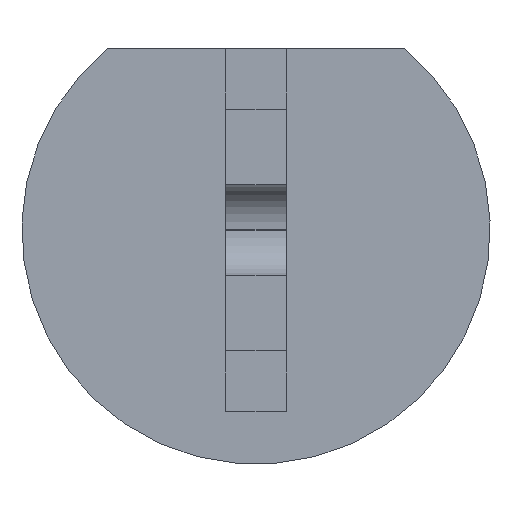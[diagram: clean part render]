
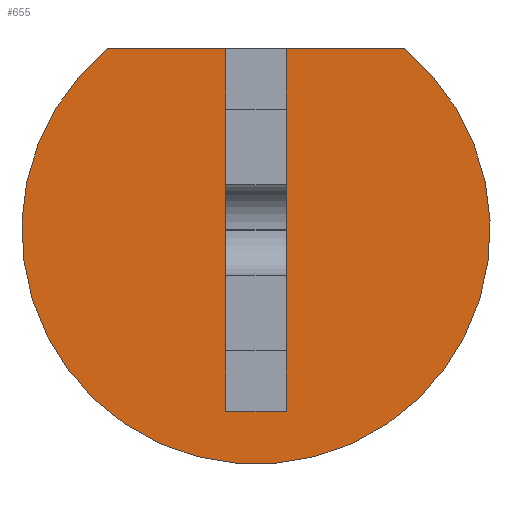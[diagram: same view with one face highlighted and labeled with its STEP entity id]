
A CAD part, front view. The second image highlights one B-rep face of the part: STEP entity #655.
In plain terms, the highlighted planar face has unit normal (0, -1, 0).
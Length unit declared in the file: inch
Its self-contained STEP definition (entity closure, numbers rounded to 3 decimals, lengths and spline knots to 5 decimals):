
#1 = CARTESIAN_POINT ( 'NONE',  ( 0., -0.035, 0. ) ) ;
#44 = CARTESIAN_POINT ( 'NONE',  ( -0.04905, -0.035, 0.06 ) ) ;
#46 = EDGE_LOOP ( 'NONE', ( #945, #224 ) ) ;
#121 = DIRECTION ( 'NONE',  ( 0., 1., 0. ) ) ;
#122 = LINE ( 'NONE', #44, #685 ) ;
#195 = AXIS2_PLACEMENT_3D ( 'NONE', #1, #530, #825 ) ;
#224 = ORIENTED_EDGE ( 'NONE', *, *, #708, .F. ) ;
#282 = DIRECTION ( 'NONE',  ( 1., 0., 0. ) ) ;
#412 = AXIS2_PLACEMENT_3D ( 'NONE', #724, #121, #658 ) ;
#415 = CARTESIAN_POINT ( 'NONE',  ( 0.04905, -0.035, 0.06 ) ) ;
#487 = VERTEX_POINT ( 'NONE', #864 ) ;
#494 = PLANE ( 'NONE',  #412 ) ;
#530 = DIRECTION ( 'NONE',  ( 0., 1., 0. ) ) ;
#653 = VERTEX_POINT ( 'NONE', #415 ) ;
#655 = ADVANCED_FACE ( 'NONE', ( #899 ), #494, .F. ) ;
#658 = DIRECTION ( 'NONE',  ( 0., 0., 1. ) ) ;
#685 = VECTOR ( 'NONE', #282, 39.37008 ) ;
#708 = EDGE_CURVE ( 'NONE', #487, #653, #122, .T. ) ;
#724 = CARTESIAN_POINT ( 'NONE',  ( 0., -0.035, 0. ) ) ;
#825 = DIRECTION ( 'NONE',  ( 0., 0., 1. ) ) ;
#835 = EDGE_CURVE ( 'NONE', #653, #487, #885, .T. ) ;
#864 = CARTESIAN_POINT ( 'NONE',  ( -0.04905, -0.035, 0.06 ) ) ;
#885 = CIRCLE ( 'NONE', #195, 0.0775 ) ;
#899 = FACE_OUTER_BOUND ( 'NONE', #46, .T. ) ;
#945 = ORIENTED_EDGE ( 'NONE', *, *, #835, .F. ) ;
